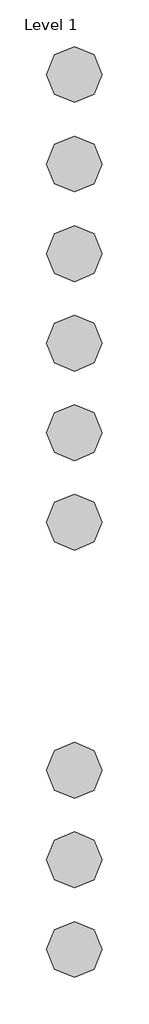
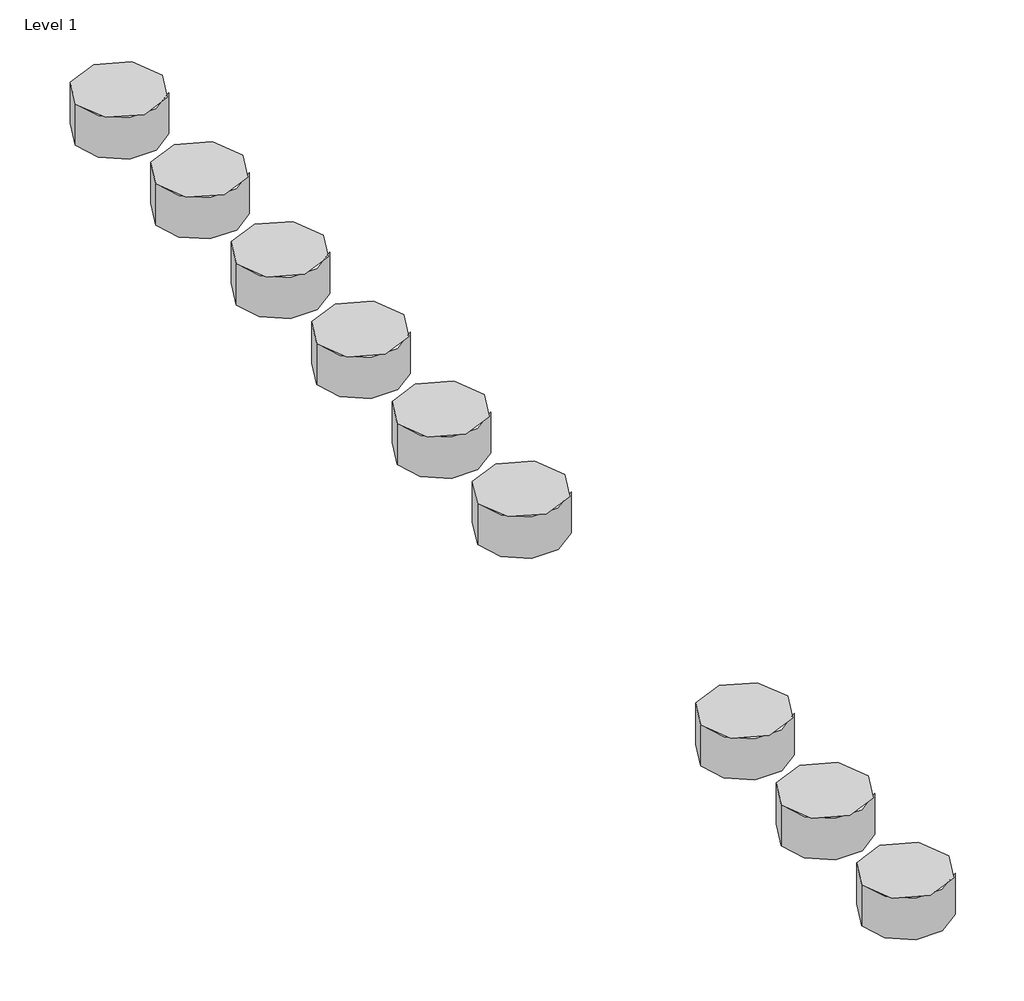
# One storey, incomplete: 9 proxies.
"""IFC4 building model written with IfcOpenShell, lengths in millimetres."""

from ifc_helpers import new_model, si_unit, origin, place, context, project, spatial, transform, mapped, element, save
from components import materialmodel_materialmodel_02e69005

model = new_model("IFC4")

# Units and contexts
model_context = context("Model", 3, world=origin())
ifc_project = project(units=[si_unit("LENGTHUNIT", "METRE", prefix="MILLI")], contexts=[model_context])

# Site, building, storey
site = spatial("IfcSite", under=ifc_project)
building = spatial("IfcBuilding", under=site)
storey = spatial("IfcBuildingStorey", under=building, Name="Level 1", Elevation=0.0)

# Proxies
placement = place(None, origin())
materialmodel_materialmodel_shape = materialmodel_materialmodel_02e69005(model_context)
element("IfcBuildingElementProxy", 1, Name="MaterialModel : MaterialModel", ObjectType="MaterialModel : MaterialModel", at=placement, inside=storey, context=model_context, shape_type="MappedRepresentation", body=[
    mapped(materialmodel_materialmodel_shape, transform((-5472.1657896, 3150.5072891, 0.0), x_axis=(1.0, 0.0, 0.0), y_axis=(0.0, 1.0, 0.0), z_axis=(0.0, 0.0, 1.0))),
])
element("IfcBuildingElementProxy", 2, Name="MaterialModel : MaterialModel", ObjectType="MaterialModel : MaterialModel", at=placement, inside=storey, context=model_context, shape_type="MappedRepresentation", body=[
    mapped(materialmodel_materialmodel_shape, transform((-5472.1657896, 2830.5072891, 0.0), x_axis=(1.0, 0.0, 0.0), y_axis=(0.0, 1.0, 0.0), z_axis=(0.0, 0.0, 1.0))),
])
element("IfcBuildingElementProxy", 3, Name="MaterialModel : MaterialModel", ObjectType="MaterialModel : MaterialModel", at=placement, inside=storey, context=model_context, shape_type="MappedRepresentation", body=[
    mapped(materialmodel_materialmodel_shape, transform((-5472.1657896, 2990.5072891, 0.0), x_axis=(1.0, 0.0, 0.0), y_axis=(0.0, 1.0, 0.0), z_axis=(0.0, 0.0, 1.0))),
])
element("IfcBuildingElementProxy", 4, Name="MaterialModel : MaterialModel", ObjectType="MaterialModel : MaterialModel", at=placement, inside=storey, context=model_context, shape_type="MappedRepresentation", body=[
    mapped(materialmodel_materialmodel_shape, transform((-5472.1657896, 4394.5048486, 0.0), x_axis=(1.0, 0.0, 0.0), y_axis=(0.0, 1.0, 0.0), z_axis=(0.0, 0.0, 1.0))),
])
element("IfcBuildingElementProxy", 5, Name="MaterialModel : MaterialModel", ObjectType="MaterialModel : MaterialModel", at=placement, inside=storey, context=model_context, shape_type="MappedRepresentation", body=[
    mapped(materialmodel_materialmodel_shape, transform((-5472.1657896, 4234.5048486, 0.0), x_axis=(1.0, 0.0, 0.0), y_axis=(0.0, 1.0, 0.0), z_axis=(0.0, 0.0, 1.0))),
])
element("IfcBuildingElementProxy", 6, Name="MaterialModel : MaterialModel", ObjectType="MaterialModel : MaterialModel", at=placement, inside=storey, context=model_context, shape_type="MappedRepresentation", body=[
    mapped(materialmodel_materialmodel_shape, transform((-5472.1657896, 4074.5048486, 0.0), x_axis=(1.0, 0.0, 0.0), y_axis=(0.0, 1.0, 0.0), z_axis=(0.0, 0.0, 1.0))),
])
element("IfcBuildingElementProxy", 7, Name="MaterialModel : MaterialModel", ObjectType="MaterialModel : MaterialModel", at=placement, inside=storey, context=model_context, shape_type="MappedRepresentation", body=[
    mapped(materialmodel_materialmodel_shape, transform((-5472.1657896, 3914.5048486, 0.0), x_axis=(1.0, 0.0, 0.0), y_axis=(0.0, 1.0, 0.0), z_axis=(0.0, 0.0, 1.0))),
])
element("IfcBuildingElementProxy", 8, Name="MaterialModel : MaterialModel", ObjectType="MaterialModel : MaterialModel", at=placement, inside=storey, context=model_context, shape_type="MappedRepresentation", body=[
    mapped(materialmodel_materialmodel_shape, transform((-5472.1657896, 3754.5048486, 0.0), x_axis=(1.0, 0.0, 0.0), y_axis=(0.0, 1.0, 0.0), z_axis=(0.0, 0.0, 1.0))),
])
element("IfcBuildingElementProxy", 9, Name="MaterialModel : MaterialModel", ObjectType="MaterialModel : MaterialModel", at=placement, inside=storey, context=model_context, shape_type="MappedRepresentation", body=[
    mapped(materialmodel_materialmodel_shape, transform((-5472.1657896, 3594.5048486, 0.0), x_axis=(1.0, 0.0, 0.0), y_axis=(0.0, 1.0, 0.0), z_axis=(0.0, 0.0, 1.0))),
])

save(model, "model.ifc")
